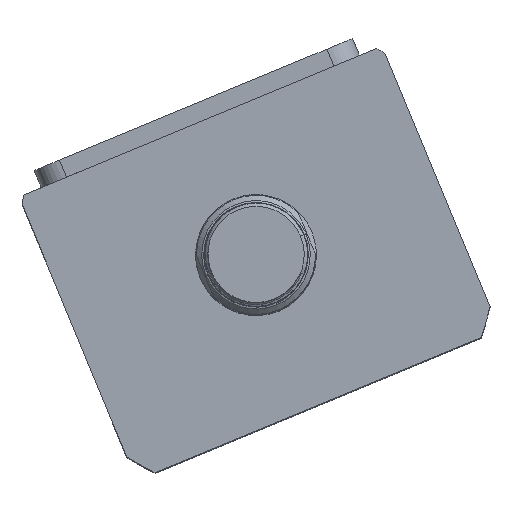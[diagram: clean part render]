
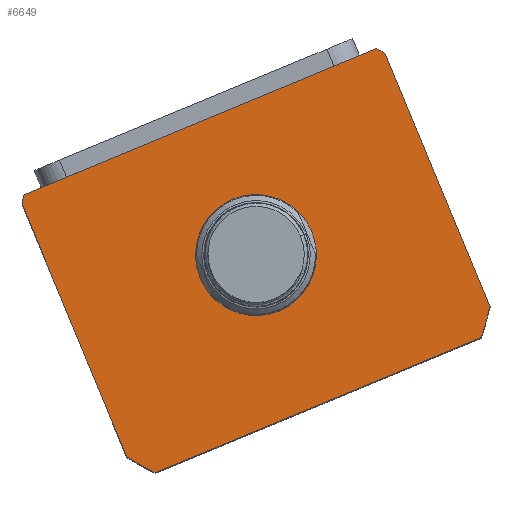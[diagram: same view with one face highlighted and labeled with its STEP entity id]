
A CAD part, top view. The second image highlights one B-rep face of the part: STEP entity #6649.
In plain terms, the highlighted planar face has unit normal (0, 0, 1) as drawn and (0, 0, -1) by its records, which use the part's own axes.
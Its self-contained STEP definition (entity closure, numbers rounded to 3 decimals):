
#102 = CARTESIAN_POINT ( 'NONE',  ( 57., -19.732, 0. ) ) ;
#420 = ORIENTED_EDGE ( 'NONE', *, *, #27568, .T. ) ;
#945 = CARTESIAN_POINT ( 'NONE',  ( -57., -19.732, 0. ) ) ;
#1019 = CARTESIAN_POINT ( 'NONE',  ( -51.198, -106.497, 0. ) ) ;
#1721 = EDGE_CURVE ( 'NONE', #22025, #24690, #22886, .T. ) ;
#2103 = DIRECTION ( 'NONE',  ( 0., 0., 1. ) ) ;
#2854 = PLANE ( 'NONE',  #13646 ) ;
#2935 = CIRCLE ( 'NONE', #26998, 69.5 ) ;
#2975 = CARTESIAN_POINT ( 'NONE',  ( 0., -59.497, 0. ) ) ;
#3258 = DIRECTION ( 'NONE',  ( 0., 1., 0. ) ) ;
#3362 = CARTESIAN_POINT ( 'NONE',  ( 17.5, -59.497, 0. ) ) ;
#3545 = ORIENTED_EDGE ( 'NONE', *, *, #4075, .T. ) ;
#3906 = DIRECTION ( 'NONE',  ( -1., 0., 0. ) ) ;
#4075 = EDGE_CURVE ( 'NONE', #17376, #26519, #12726, .T. ) ;
#4812 = LINE ( 'NONE', #14607, #10522 ) ;
#4825 = DIRECTION ( 'NONE',  ( 0., 0., 1. ) ) ;
#5035 = DIRECTION ( 'NONE',  ( 1., 0., 0. ) ) ;
#5151 = DIRECTION ( 'NONE',  ( 1., 0., 0. ) ) ;
#5357 = DIRECTION ( 'NONE',  ( 0., 0., 1. ) ) ;
#5869 = LINE ( 'NONE', #21131, #17305 ) ;
#5872 = DIRECTION ( 'NONE',  ( 0., 0., 1. ) ) ;
#6485 = VERTEX_POINT ( 'NONE', #7375 ) ;
#6649 = ADVANCED_FACE ( 'NONE', ( #23335, #18252 ), #2854, .F. ) ;
#6733 = ORIENTED_EDGE ( 'NONE', *, *, #27227, .F. ) ;
#7375 = CARTESIAN_POINT ( 'NONE',  ( -55.374, -17.497, 0. ) ) ;
#7591 = ORIENTED_EDGE ( 'NONE', *, *, #24296, .F. ) ;
#8209 = DIRECTION ( 'NONE',  ( 1., 0., 0. ) ) ;
#8352 = VECTOR ( 'NONE', #3258, 1000. ) ;
#9000 = VERTEX_POINT ( 'NONE', #11704 ) ;
#9084 = DIRECTION ( 'NONE',  ( 0., 0., 1. ) ) ;
#9089 = CARTESIAN_POINT ( 'NONE',  ( 57., -99.262, 0. ) ) ;
#9719 = EDGE_CURVE ( 'NONE', #13381, #22025, #18880, .T. ) ;
#10150 = EDGE_CURVE ( 'NONE', #9000, #6485, #16148, .T. ) ;
#10522 = VECTOR ( 'NONE', #25376, 1000. ) ;
#10612 = ORIENTED_EDGE ( 'NONE', *, *, #9719, .F. ) ;
#10889 = CARTESIAN_POINT ( 'NONE',  ( 51.198, -106.497, 0. ) ) ;
#11704 = CARTESIAN_POINT ( 'NONE',  ( 55.374, -17.497, 0. ) ) ;
#11881 = ORIENTED_EDGE ( 'NONE', *, *, #24341, .F. ) ;
#12726 = CIRCLE ( 'NONE', #15643, 17.5 ) ;
#13381 = VERTEX_POINT ( 'NONE', #10889 ) ;
#13646 = AXIS2_PLACEMENT_3D ( 'NONE', #26427, #17921, #5035 ) ;
#13881 = CARTESIAN_POINT ( 'NONE',  ( 57., -17.497, 0. ) ) ;
#14099 = ORIENTED_EDGE ( 'NONE', *, *, #22379, .F. ) ;
#14607 = CARTESIAN_POINT ( 'NONE',  ( -57., -17.497, 0. ) ) ;
#14831 = AXIS2_PLACEMENT_3D ( 'NONE', #15003, #2103, #17173 ) ;
#15003 = CARTESIAN_POINT ( 'NONE',  ( 0., -59.497, 0. ) ) ;
#15021 = ORIENTED_EDGE ( 'NONE', *, *, #17285, .F. ) ;
#15643 = AXIS2_PLACEMENT_3D ( 'NONE', #17716, #4825, #19897 ) ;
#15925 = EDGE_LOOP ( 'NONE', ( #3545, #420 ) ) ;
#16148 = LINE ( 'NONE', #16799, #17511 ) ;
#16799 = CARTESIAN_POINT ( 'NONE',  ( -57., -17.497, 0. ) ) ;
#16871 = ORIENTED_EDGE ( 'NONE', *, *, #10150, .F. ) ;
#17173 = DIRECTION ( 'NONE',  ( 1., 0., 0. ) ) ;
#17285 = EDGE_CURVE ( 'NONE', #27945, #21416, #2935, .T. ) ;
#17305 = VECTOR ( 'NONE', #8209, 1000. ) ;
#17376 = VERTEX_POINT ( 'NONE', #3362 ) ;
#17496 = CARTESIAN_POINT ( 'NONE',  ( -17.5, -59.497, 0. ) ) ;
#17511 = VECTOR ( 'NONE', #3906, 1000. ) ;
#17652 = EDGE_LOOP ( 'NONE', ( #6733, #19413, #10612, #14099, #15021, #11881, #7591, #16871 ) ) ;
#17716 = CARTESIAN_POINT ( 'NONE',  ( 0., -59.497, 0. ) ) ;
#17921 = DIRECTION ( 'NONE',  ( 0., 0., 1. ) ) ;
#18049 = DIRECTION ( 'NONE',  ( 0., 0., 1. ) ) ;
#18112 = CIRCLE ( 'NONE', #23542, 17.5 ) ;
#18248 = CARTESIAN_POINT ( 'NONE',  ( 0., -59.497, 0. ) ) ;
#18252 = FACE_OUTER_BOUND ( 'NONE', #17652, .T. ) ;
#18784 = CARTESIAN_POINT ( 'NONE',  ( 0., -59.497, 0. ) ) ;
#18880 = CIRCLE ( 'NONE', #26861, 69.5 ) ;
#19067 = VERTEX_POINT ( 'NONE', #945 ) ;
#19413 = ORIENTED_EDGE ( 'NONE', *, *, #1721, .F. ) ;
#19897 = DIRECTION ( 'NONE',  ( 1., 0., 0. ) ) ;
#20429 = DIRECTION ( 'NONE',  ( 1., 0., 0. ) ) ;
#20961 = DIRECTION ( 'NONE',  ( 1., 0., 0. ) ) ;
#21131 = CARTESIAN_POINT ( 'NONE',  ( -57., -106.497, 0. ) ) ;
#21416 = VERTEX_POINT ( 'NONE', #1019 ) ;
#22025 = VERTEX_POINT ( 'NONE', #9089 ) ;
#22026 = CARTESIAN_POINT ( 'NONE',  ( 0., -59.497, 0. ) ) ;
#22239 = CARTESIAN_POINT ( 'NONE',  ( -57., -99.262, 0. ) ) ;
#22379 = EDGE_CURVE ( 'NONE', #21416, #13381, #5869, .T. ) ;
#22713 = CIRCLE ( 'NONE', #23261, 69.5 ) ;
#22886 = LINE ( 'NONE', #13881, #8352 ) ;
#23261 = AXIS2_PLACEMENT_3D ( 'NONE', #18784, #5872, #20961 ) ;
#23335 = FACE_BOUND ( 'NONE', #15925, .T. ) ;
#23542 = AXIS2_PLACEMENT_3D ( 'NONE', #22026, #9084, #24169 ) ;
#24169 = DIRECTION ( 'NONE',  ( 1., 0., 0. ) ) ;
#24296 = EDGE_CURVE ( 'NONE', #6485, #19067, #22713, .T. ) ;
#24341 = EDGE_CURVE ( 'NONE', #19067, #27945, #4812, .T. ) ;
#24690 = VERTEX_POINT ( 'NONE', #102 ) ;
#25376 = DIRECTION ( 'NONE',  ( 0., -1., 0. ) ) ;
#25874 = CIRCLE ( 'NONE', #14831, 69.5 ) ;
#26427 = CARTESIAN_POINT ( 'NONE',  ( 0., 0., 0. ) ) ;
#26519 = VERTEX_POINT ( 'NONE', #17496 ) ;
#26861 = AXIS2_PLACEMENT_3D ( 'NONE', #2975, #18049, #5151 ) ;
#26998 = AXIS2_PLACEMENT_3D ( 'NONE', #18248, #5357, #20429 ) ;
#27227 = EDGE_CURVE ( 'NONE', #24690, #9000, #25874, .T. ) ;
#27568 = EDGE_CURVE ( 'NONE', #26519, #17376, #18112, .T. ) ;
#27945 = VERTEX_POINT ( 'NONE', #22239 ) ;
